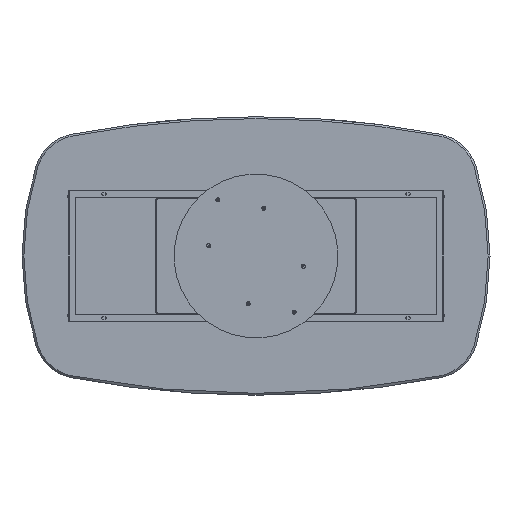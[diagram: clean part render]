
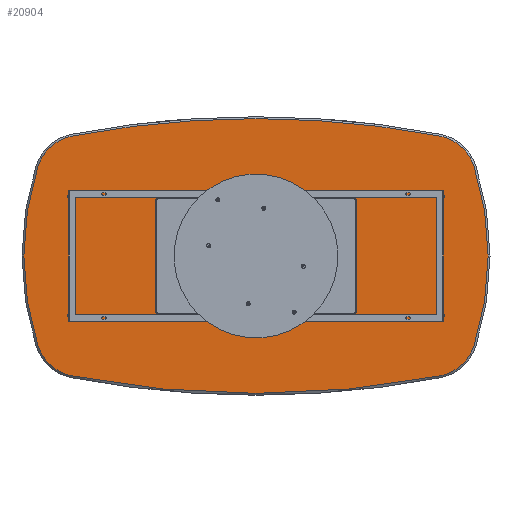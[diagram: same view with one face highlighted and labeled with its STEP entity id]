
A CAD part, front view. The second image highlights one B-rep face of the part: STEP entity #20904.
In plain terms, the highlighted planar face has unit normal (0, -1, 0).
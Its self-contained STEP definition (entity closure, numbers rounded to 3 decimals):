
#138 = EDGE_CURVE ( 'NONE', #4344, #9928, #15190, .T. ) ;
#446 = VERTEX_POINT ( 'NONE', #5568 ) ;
#524 = DIRECTION ( 'NONE',  ( 0., -1., 0. ) ) ;
#696 = ORIENTED_EDGE ( 'NONE', *, *, #138, .T. ) ;
#1064 = AXIS2_PLACEMENT_3D ( 'NONE', #6343, #4613, #13147 ) ;
#1472 = CIRCLE ( 'NONE', #17368, 192. ) ;
#1521 = AXIS2_PLACEMENT_3D ( 'NONE', #4810, #3311, #11401 ) ;
#1776 = EDGE_CURVE ( 'NONE', #14490, #6697, #12955, .T. ) ;
#1848 = AXIS2_PLACEMENT_3D ( 'NONE', #16669, #16561, #3457 ) ;
#2180 = VERTEX_POINT ( 'NONE', #15222 ) ;
#2388 = CARTESIAN_POINT ( 'NONE',  ( -785.163, 0., -512.813 ) ) ;
#2524 = DIRECTION ( 'NONE',  ( 0., 0., 1. ) ) ;
#2875 = ORIENTED_EDGE ( 'NONE', *, *, #5056, .T. ) ;
#2926 = CIRCLE ( 'NONE', #20542, 192. ) ;
#3262 = CARTESIAN_POINT ( 'NONE',  ( 0., 0., -3605. ) ) ;
#3311 = DIRECTION ( 'NONE',  ( 0., 1., 0. ) ) ;
#3457 = DIRECTION ( 'NONE',  ( 0., 0., 1. ) ) ;
#3951 = DIRECTION ( 'NONE',  ( 0., 0., 1. ) ) ;
#4271 = CIRCLE ( 'NONE', #1848, 1252. ) ;
#4344 = VERTEX_POINT ( 'NONE', #2388 ) ;
#4469 = VERTEX_POINT ( 'NONE', #17458 ) ;
#4613 = DIRECTION ( 'NONE',  ( 0., -1., 0. ) ) ;
#4810 = CARTESIAN_POINT ( 'NONE',  ( -130., 0., 1802.5 ) ) ;
#4862 = DIRECTION ( 'NONE',  ( 0., 0., 1. ) ) ;
#5056 = EDGE_CURVE ( 'NONE', #4469, #446, #9878, .T. ) ;
#5246 = CIRCLE ( 'NONE', #17352, 4192. ) ;
#5366 = DIRECTION ( 'NONE',  ( 0., -1., 0. ) ) ;
#5568 = CARTESIAN_POINT ( 'NONE',  ( 785.163, 0., 512.813 ) ) ;
#5592 = VERTEX_POINT ( 'NONE', #10482 ) ;
#5859 = DIRECTION ( 'NONE',  ( 0., -1., 0. ) ) ;
#6343 = CARTESIAN_POINT ( 'NONE',  ( -260., 0., 0. ) ) ;
#6697 = VERTEX_POINT ( 'NONE', #15478 ) ;
#7250 = EDGE_CURVE ( 'NONE', #9928, #2180, #8364, .T. ) ;
#7312 = AXIS2_PLACEMENT_3D ( 'NONE', #12518, #8194, #19665 ) ;
#7374 = DIRECTION ( 'NONE',  ( 0., 0., 1. ) ) ;
#7466 = ORIENTED_EDGE ( 'NONE', *, *, #10039, .T. ) ;
#7479 = CARTESIAN_POINT ( 'NONE',  ( 749.201, 0., 324.211 ) ) ;
#8194 = DIRECTION ( 'NONE',  ( 0., -1., 0. ) ) ;
#8364 = CIRCLE ( 'NONE', #7312, 192. ) ;
#8421 = EDGE_CURVE ( 'NONE', #6697, #19401, #2926, .T. ) ;
#8600 = AXIS2_PLACEMENT_3D ( 'NONE', #15557, #524, #14050 ) ;
#9878 = CIRCLE ( 'NONE', #17139, 192. ) ;
#9928 = VERTEX_POINT ( 'NONE', #15985 ) ;
#10039 = EDGE_CURVE ( 'NONE', #2180, #4469, #17297, .T. ) ;
#10298 = EDGE_LOOP ( 'NONE', ( #15210, #696, #18961, #7466, #2875, #15483, #15064, #16139, #19252 ) ) ;
#10482 = CARTESIAN_POINT ( 'NONE',  ( -932., 0., -382.936 ) ) ;
#10717 = CARTESIAN_POINT ( 'NONE',  ( 0., 0., -3605. ) ) ;
#10780 = DIRECTION ( 'NONE',  ( 0., -1., 0. ) ) ;
#11401 = DIRECTION ( 'NONE',  ( 0., 0., 1. ) ) ;
#11739 = CARTESIAN_POINT ( 'NONE',  ( -749.201, 0., -324.211 ) ) ;
#12184 = CARTESIAN_POINT ( 'NONE',  ( 0., 0., 587. ) ) ;
#12198 = DIRECTION ( 'NONE',  ( 0., 0., 1. ) ) ;
#12518 = CARTESIAN_POINT ( 'NONE',  ( 749.201, 0., -324.211 ) ) ;
#12955 = CIRCLE ( 'NONE', #16751, 4192. ) ;
#13147 = DIRECTION ( 'NONE',  ( 0., 0., 1. ) ) ;
#14050 = DIRECTION ( 'NONE',  ( 0., 0., 1. ) ) ;
#14490 = VERTEX_POINT ( 'NONE', #12184 ) ;
#14681 = FACE_OUTER_BOUND ( 'NONE', #10298, .T. ) ;
#15064 = ORIENTED_EDGE ( 'NONE', *, *, #1776, .T. ) ;
#15190 = CIRCLE ( 'NONE', #8600, 4192. ) ;
#15210 = ORIENTED_EDGE ( 'NONE', *, *, #19311, .T. ) ;
#15222 = CARTESIAN_POINT ( 'NONE',  ( 932., 0., -382.936 ) ) ;
#15478 = CARTESIAN_POINT ( 'NONE',  ( -785.163, 0., 512.813 ) ) ;
#15483 = ORIENTED_EDGE ( 'NONE', *, *, #18531, .T. ) ;
#15557 = CARTESIAN_POINT ( 'NONE',  ( 0., 0., 3605. ) ) ;
#15985 = CARTESIAN_POINT ( 'NONE',  ( 785.163, 0., -512.813 ) ) ;
#16139 = ORIENTED_EDGE ( 'NONE', *, *, #8421, .T. ) ;
#16561 = DIRECTION ( 'NONE',  ( 0., -1., 0. ) ) ;
#16669 = CARTESIAN_POINT ( 'NONE',  ( 260., 0., 0. ) ) ;
#16751 = AXIS2_PLACEMENT_3D ( 'NONE', #3262, #19697, #4862 ) ;
#17131 = DIRECTION ( 'NONE',  ( 0., -1., 0. ) ) ;
#17139 = AXIS2_PLACEMENT_3D ( 'NONE', #7479, #5859, #7374 ) ;
#17297 = CIRCLE ( 'NONE', #1064, 1252. ) ;
#17352 = AXIS2_PLACEMENT_3D ( 'NONE', #10717, #17131, #2524 ) ;
#17368 = AXIS2_PLACEMENT_3D ( 'NONE', #11739, #5366, #3951 ) ;
#17458 = CARTESIAN_POINT ( 'NONE',  ( 932., 0., 382.936 ) ) ;
#18531 = EDGE_CURVE ( 'NONE', #446, #14490, #5246, .T. ) ;
#18961 = ORIENTED_EDGE ( 'NONE', *, *, #7250, .T. ) ;
#19252 = ORIENTED_EDGE ( 'NONE', *, *, #20645, .T. ) ;
#19311 = EDGE_CURVE ( 'NONE', #5592, #4344, #1472, .T. ) ;
#19401 = VERTEX_POINT ( 'NONE', #20402 ) ;
#19665 = DIRECTION ( 'NONE',  ( 0., 0., 1. ) ) ;
#19697 = DIRECTION ( 'NONE',  ( 0., -1., 0. ) ) ;
#20402 = CARTESIAN_POINT ( 'NONE',  ( -932., 0., 382.936 ) ) ;
#20542 = AXIS2_PLACEMENT_3D ( 'NONE', #20751, #10780, #12198 ) ;
#20645 = EDGE_CURVE ( 'NONE', #19401, #5592, #4271, .T. ) ;
#20751 = CARTESIAN_POINT ( 'NONE',  ( -749.201, 0., 324.211 ) ) ;
#20904 = ADVANCED_FACE ( 'NONE', ( #14681 ), #21285, .F. ) ;
#21285 = PLANE ( 'NONE',  #1521 ) ;
